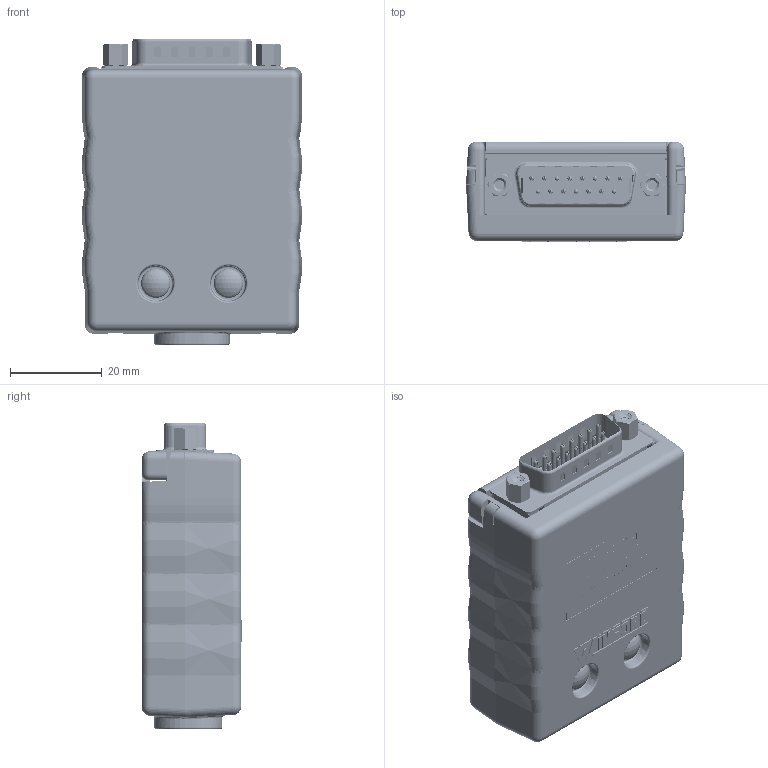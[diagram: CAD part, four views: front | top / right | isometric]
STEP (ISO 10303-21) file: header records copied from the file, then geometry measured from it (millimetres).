
FILE_DESCRIPTION (( 'STEP AP214' ), '1' );
FILE_NAME ('brkegd15m-r_rev_b.step', '2024-09-05T17:41:30', ( '' ), ( '' ), 'SwSTEP 2.0', 'SolidWorks 2018', '' );
FILE_SCHEMA (( 'AUTOMOTIVE_DESIGN' ));
Length unit declared in the file: inch
Products named in the file (12): brkegd15m-r_label; 3.5 x 5 Nylon 6 Snap Rivet; ECB15A2 Cover; brkegd15m_pcb_assembly_BRKEGD15M-R; Spring Term 8 Position; brkegd15m-r_rev_b; Male Right Angle 15 Pin_threaded_holes_jackscrews; Male Right Angle 15 Pin Jackscrew_jackscrews; ECB15A2 Base; Enclosure_Screw Ph 4-40 x .625_4-40_screw; brkegd15m_pcb; Enclosure #4-40 Insert_4-40_insert
Assembly tree (15 placements, depth 3):
  brkegd15m-r_rev_b
    ECB15A2 Base
    brkegd15m_pcb_assembly_BRKEGD15M-R
      brkegd15m_pcb
      Male Right Angle 15 Pin Jackscrew_jackscrews
      Male Right Angle 15 Pin_threaded_holes_jackscrews
      Spring Term 8 Position  x2
    Enclosure #4-40 Insert_4-40_insert  x2
    3.5 x 5 Nylon 6 Snap Rivet  x2
    Enclosure_Screw Ph 4-40 x .625_4-40_screw  x2
    brkegd15m-r_label
    ECB15A2 Cover
Bounding box: 48.07 x 22 x 66.99 mm (x, y, z)
Volume: 28144.4 mm3; surface area: 49009.9 mm2
Topology: 242 solids, 294 shells, 18050 faces, 45153 edges, 27862 vertices
Faces by surface type: plane 7064, bspline 5882, cylinder 4470, torus 256, cone 208, sphere 170
Entity records: 786858 total; most frequent: CARTESIAN_POINT 344910, ORIENTED_EDGE 72656, DIRECTION 52586, EDGE_CURVE 36335, VERTEX_POINT 22625, VECTOR 19012, LINE 19012, AXIS2_PLACEMENT_3D 16787
